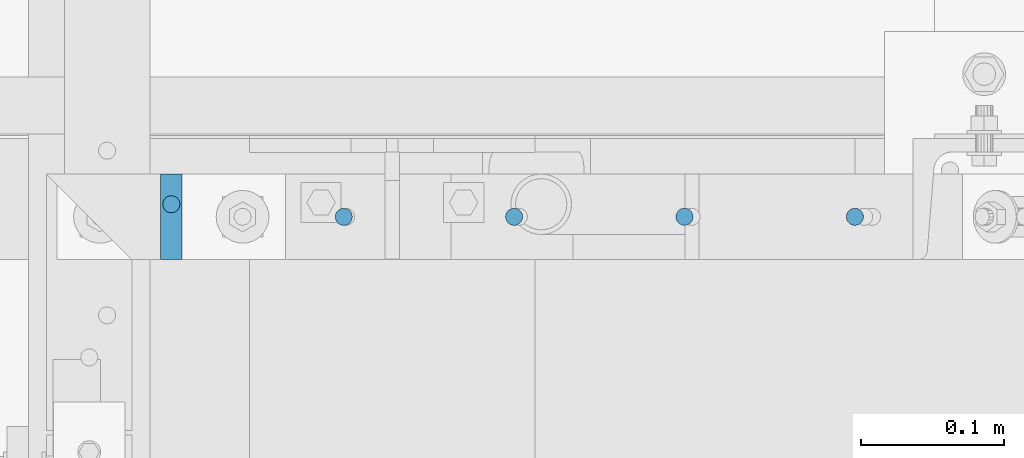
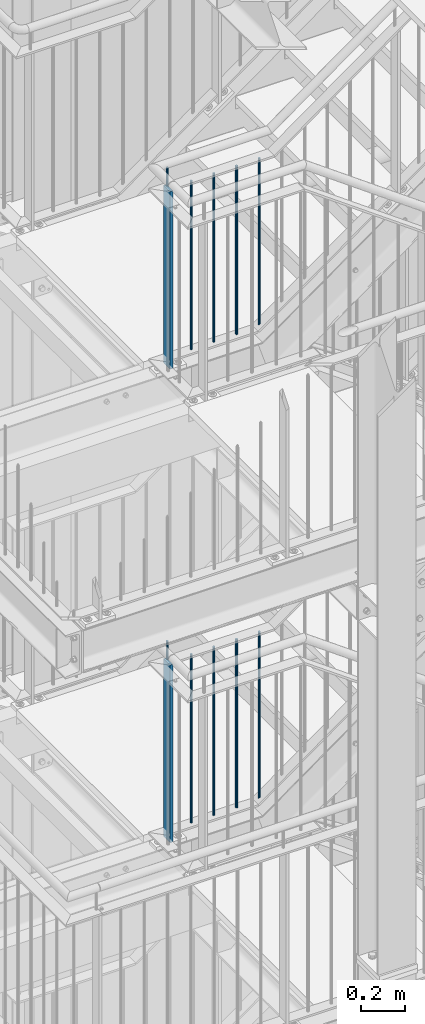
# One storey, part 27 of 821: 12 columns.
"""IFC2X3 building model written with IfcOpenShell, lengths in millimetres."""

from ifc_helpers import new_model, entity, si_unit, converted_unit, frame, origin, origin_with_axes, origin_2d, place, context, project, spatial, rectangle, circle, extrude, clip, halfspace, material, element, save


model = new_model("IFC2X3")

# Units and contexts
model_context = context("Model", 3, precision=1e-09, world=origin_with_axes())
ifc_project = project(units=[si_unit("LENGTHUNIT", "METRE", prefix="MILLI"), si_unit("AREAUNIT", "SQUARE_METRE"), si_unit("VOLUMEUNIT", "CUBIC_METRE"), converted_unit("PLANEANGLEUNIT", "DEGREE", entity("IfcPlaneAngleMeasure", 0.01745329), si_unit("PLANEANGLEUNIT", "RADIAN"), dimensions=[0, 0, 0, 0, 0, 0, 0])], contexts=[model_context])

# Site, building, storey
site_placement = place(None, origin_with_axes())
site = spatial("IfcSite", under=ifc_project, at=site_placement, Name="Cnopf'sche Kinderklinik", CompositionType="ELEMENT")
building_placement = place(site_placement, origin_with_axes())
building = spatial("IfcBuilding", under=site, at=building_placement, Name="Struktur 1", CompositionType="ELEMENT")
storey_placement = place(building_placement, origin_with_axes())
storey = spatial("IfcBuildingStorey", under=building, at=storey_placement, Name="Default Storey", CompositionType="ELEMENT", Elevation=0.0)

# Columns
ifc_material = material(Name="S235JR")
column_1_placement = place(None, frame((4701.713402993, 6091.736971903, 13618.723292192), z_axis=(0.0, 0.0, 1.0), x_axis=(1.0, 0.0, 0.0)))
element("IfcColumn", 1, at=column_1_placement, inside=storey, material=ifc_material, Name="Railing_Post_Landing#0", ObjectType="Railing_Post_Landing#0", context=model_context, shape_type="Clipping", body=[
    clip(clip(extrude(rectangle(XDim=15.0, YDim=60.0, at=origin_2d()), origin(), (0.0, 0.0, -1.0), 1070.646584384), halfspace(frame((-4701.713402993, -6091.736971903, -1019.722292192), z_axis=(0.0, 0.0, 1.0), x_axis=(1.0, 0.0, 0.0)), True)), halfspace(frame((-4701.713402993, -6091.736971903, -30.924292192), z_axis=(0.0, 0.0, -1.0), x_axis=(-1.0, 0.0, 0.0)), True)),
])
column_2_placement = place(None, frame((4822.663402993, 6091.736971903, 13601.285281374), z_axis=(0.0, 0.0, 1.0), x_axis=(1.0, 0.0, 0.0)))
element("IfcColumn", 2, at=column_2_placement, inside=storey, material=ifc_material, Name="Railing_Picket_Landing#0", ObjectType="Railing_Picket_Landing#0", context=model_context, shape_type="Clipping", body=[
    clip(clip(extrude(circle(Radius=6.0, at=origin_2d()), origin(), (0.0, 0.0, -1.0), 965.770562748), halfspace(frame((-4822.663402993, -6091.736971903, -13.486281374), z_axis=(0.0, 0.0, -1.0), x_axis=(-1.0, 0.0, 0.0)), True)), halfspace(frame((-4822.663402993, -6091.736971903, -952.284281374), z_axis=(0.0, 0.0, 1.0), x_axis=(1.0, 0.0, 0.0)), True)),
])
column_3_placement = place(None, frame((4942.113465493, 6091.736971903, 13601.285281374), z_axis=(0.0, 0.0, 1.0), x_axis=(1.0, 0.0, 0.0)))
element("IfcColumn", 3, at=column_3_placement, inside=storey, material=ifc_material, Name="Railing_Picket_Landing#1", ObjectType="Railing_Picket_Landing#1", context=model_context, shape_type="Clipping", body=[
    clip(clip(extrude(circle(Radius=6.0, at=origin_2d()), origin(), (0.0, 0.0, -1.0), 965.770562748), halfspace(frame((-4942.113465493, -6091.736971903, -13.486281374), z_axis=(0.0, 0.0, -1.0), x_axis=(-1.0, 0.0, 0.0)), True)), halfspace(frame((-4942.113465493, -6091.736971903, -952.284281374), z_axis=(0.0, 0.0, 1.0), x_axis=(1.0, 0.0, 0.0)), True)),
])
column_4_placement = place(None, frame((5061.563527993, 6091.736971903, 13601.285281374), z_axis=(0.0, 0.0, 1.0), x_axis=(1.0, 0.0, 0.0)))
element("IfcColumn", 4, at=column_4_placement, inside=storey, material=ifc_material, Name="Railing_Picket_Landing#2", ObjectType="Railing_Picket_Landing#2", context=model_context, shape_type="Clipping", body=[
    clip(extrude(circle(Radius=6.0, at=origin_2d()), origin(), (0.0, 0.0, -1.0), 952.285281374), halfspace(frame((-5061.563527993, -6091.736971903, -13.486281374), z_axis=(0.0, 0.0, -1.0), x_axis=(-1.0, 0.0, 0.0)), True)),
])
column_5_placement = place(None, frame((5181.013590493, 6091.736971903, 13587.8), z_axis=(0.0, 0.0, 1.0), x_axis=(1.0, 0.0, 0.0)))
element("IfcColumn", 5, at=column_5_placement, inside=storey, material=ifc_material, Name="Railing_Picket_Stair#3", ObjectType="Railing_Picket_Stair#3", context=model_context, shape_type="Clipping", body=[
    clip(extrude(circle(Radius=6.0, at=origin_2d()), origin(), (0.0, 0.0, -1.0), 933.180175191), halfspace(frame((-9415.342438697, -6091.736971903, -7738.480453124), z_axis=(-0.586383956, 0.0, 0.810033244), x_axis=(0.0, -1.0, 0.0)), True)),
])
column_6_placement = place(None, frame((4701.713402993, 6100.536971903, 13706.285281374), z_axis=(0.0, 0.0, 1.0), x_axis=(0.0, -1.0, 0.0)))
element("IfcColumn", 6, at=column_6_placement, inside=storey, material=ifc_material, Name="Bar#0", ObjectType="Bar#0", context=model_context, shape_type="Clipping", body=[
    clip(clip(extrude(circle(Radius=6.0, at=origin_2d()), origin(), (0.0, 0.0, -1.0), 116.970562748), halfspace(frame((6100.536971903, -4701.713402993, -8.486281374), z_axis=(0.0, 0.0, -1.0), x_axis=(0.0, -1.0, 0.0)), True)), halfspace(frame((6100.536971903, -4701.713402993, -108.484281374), z_axis=(0.0, 0.0, 1.0), x_axis=(0.0, 1.0, 0.0)), True)),
])
column_7_placement = place(None, frame((4701.713402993, 6091.736971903, 16253.723292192), z_axis=(0.0, 0.0, 1.0), x_axis=(1.0, 0.0, 0.0)))
element("IfcColumn", 7, at=column_7_placement, inside=storey, material=ifc_material, Name="Railing_Post_Landing#0", ObjectType="Railing_Post_Landing#0", context=model_context, shape_type="Clipping", body=[
    clip(clip(extrude(rectangle(XDim=15.0, YDim=60.0, at=origin_2d()), origin(), (0.0, 0.0, -1.0), 1070.646584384), halfspace(frame((-4701.713402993, -6091.736971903, -1019.722292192), z_axis=(0.0, 0.0, 1.0), x_axis=(1.0, 0.0, 0.0)), True)), halfspace(frame((-4701.713402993, -6091.736971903, -30.924292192), z_axis=(0.0, 0.0, -1.0), x_axis=(-1.0, 0.0, 0.0)), True)),
])
column_8_placement = place(None, frame((4822.663402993, 6091.736971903, 16236.285281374), z_axis=(0.0, 0.0, 1.0), x_axis=(1.0, 0.0, 0.0)))
element("IfcColumn", 8, at=column_8_placement, inside=storey, material=ifc_material, Name="Railing_Picket_Landing#0", ObjectType="Railing_Picket_Landing#0", context=model_context, shape_type="Clipping", body=[
    clip(clip(extrude(circle(Radius=6.0, at=origin_2d()), origin(), (0.0, 0.0, -1.0), 965.770562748), halfspace(frame((-4822.663402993, -6091.736971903, -13.486281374), z_axis=(0.0, 0.0, -1.0), x_axis=(-1.0, 0.0, 0.0)), True)), halfspace(frame((-4822.663402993, -6091.736971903, -952.284281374), z_axis=(0.0, 0.0, 1.0), x_axis=(1.0, 0.0, 0.0)), True)),
])
column_9_placement = place(None, frame((4942.113465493, 6091.736971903, 16236.285281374), z_axis=(0.0, 0.0, 1.0), x_axis=(1.0, 0.0, 0.0)))
element("IfcColumn", 9, at=column_9_placement, inside=storey, material=ifc_material, Name="Railing_Picket_Landing#1", ObjectType="Railing_Picket_Landing#1", context=model_context, shape_type="Clipping", body=[
    clip(clip(extrude(circle(Radius=6.0, at=origin_2d()), origin(), (0.0, 0.0, -1.0), 965.770562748), halfspace(frame((-4942.113465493, -6091.736971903, -13.486281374), z_axis=(0.0, 0.0, -1.0), x_axis=(-1.0, 0.0, 0.0)), True)), halfspace(frame((-4942.113465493, -6091.736971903, -952.284281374), z_axis=(0.0, 0.0, 1.0), x_axis=(1.0, 0.0, 0.0)), True)),
])
column_10_placement = place(None, frame((5061.563527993, 6091.736971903, 16236.285281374), z_axis=(0.0, 0.0, 1.0), x_axis=(1.0, 0.0, 0.0)))
element("IfcColumn", 10, at=column_10_placement, inside=storey, material=ifc_material, Name="Railing_Picket_Landing#2", ObjectType="Railing_Picket_Landing#2", context=model_context, shape_type="Clipping", body=[
    clip(extrude(circle(Radius=6.0, at=origin_2d()), origin(), (0.0, 0.0, -1.0), 952.285281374), halfspace(frame((-5061.563527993, -6091.736971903, -13.486281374), z_axis=(0.0, 0.0, -1.0), x_axis=(-1.0, 0.0, 0.0)), True)),
])
column_11_placement = place(None, frame((5181.013590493, 6091.736971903, 16222.8), z_axis=(0.0, 0.0, 1.0), x_axis=(1.0, 0.0, 0.0)))
element("IfcColumn", 11, at=column_11_placement, inside=storey, material=ifc_material, Name="Railing_Picket_Stair#3", ObjectType="Railing_Picket_Stair#3", context=model_context, shape_type="Clipping", body=[
    clip(extrude(circle(Radius=6.0, at=origin_2d()), origin(), (0.0, 0.0, -1.0), 933.099010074), halfspace(frame((-10667.241462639, -6091.736971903, -8600.712420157), z_axis=(-0.584187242, 0.0, 0.811618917), x_axis=(0.0, -1.0, 0.0)), True)),
])
column_12_placement = place(None, frame((4701.713402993, 6100.536971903, 16341.285281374), z_axis=(0.0, 0.0, 1.0), x_axis=(0.0, -1.0, 0.0)))
element("IfcColumn", 12, at=column_12_placement, inside=storey, material=ifc_material, Name="Bar#0", ObjectType="Bar#0", context=model_context, shape_type="Clipping", body=[
    clip(clip(extrude(circle(Radius=6.0, at=origin_2d()), origin(), (0.0, 0.0, -1.0), 116.970562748), halfspace(frame((6100.536971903, -4701.713402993, -8.486281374), z_axis=(0.0, 0.0, -1.0), x_axis=(0.0, -1.0, 0.0)), True)), halfspace(frame((6100.536971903, -4701.713402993, -108.484281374), z_axis=(0.0, 0.0, 1.0), x_axis=(0.0, 1.0, 0.0)), True)),
])

save(model, "model.ifc")
